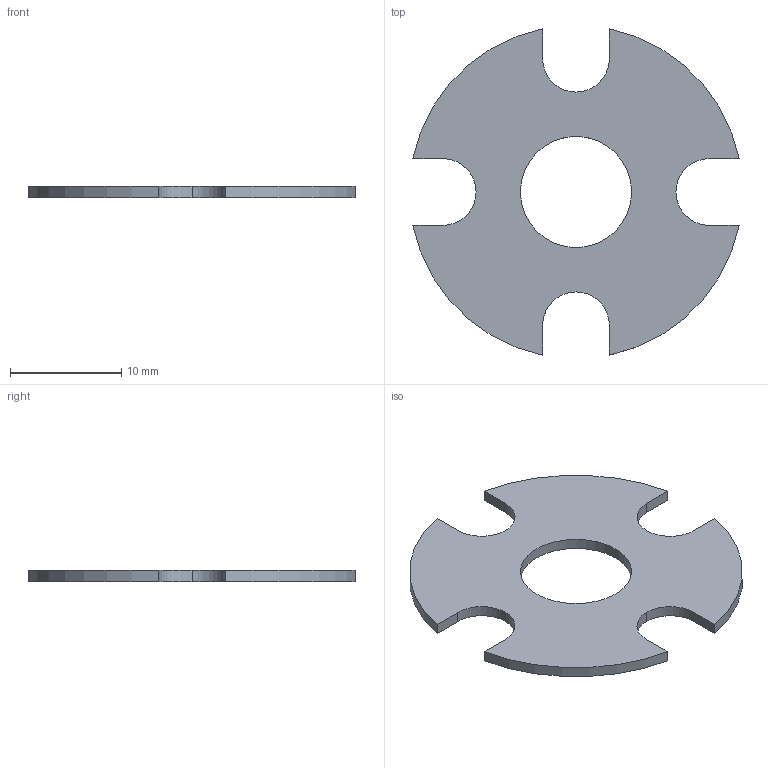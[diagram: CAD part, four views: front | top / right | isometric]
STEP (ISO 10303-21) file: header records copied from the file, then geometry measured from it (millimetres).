
FILE_DESCRIPTION(('STEP AP214'),'1');
FILE_NAME('tmp0.STEP','2026-08-22T13:45:20',(' '),(' '),'Spatial InterOp 3D',' ',' ');
FILE_SCHEMA(('AUTOMOTIVE_DESIGN { 1 0 10303 214 1 1 1 1 }'));
Length unit declared in the file: millimetre
Products named in the file (1): 1
Bounding box: 29.39 x 29.39 x 1 mm (x, y, z)
Volume: 502.1 mm3; surface area: 1165.1 mm2
Topology: 1 solids, 1 shells, 24 faces, 66 edges, 44 vertices
Faces by surface type: cylinder 14, plane 10
Entity records: 807 total; most frequent: DIRECTION 144, CARTESIAN_POINT 135, ORIENTED_EDGE 132, EDGE_CURVE 66, AXIS2_PLACEMENT_3D 53, VERTEX_POINT 44, LINE 38, VECTOR 38
